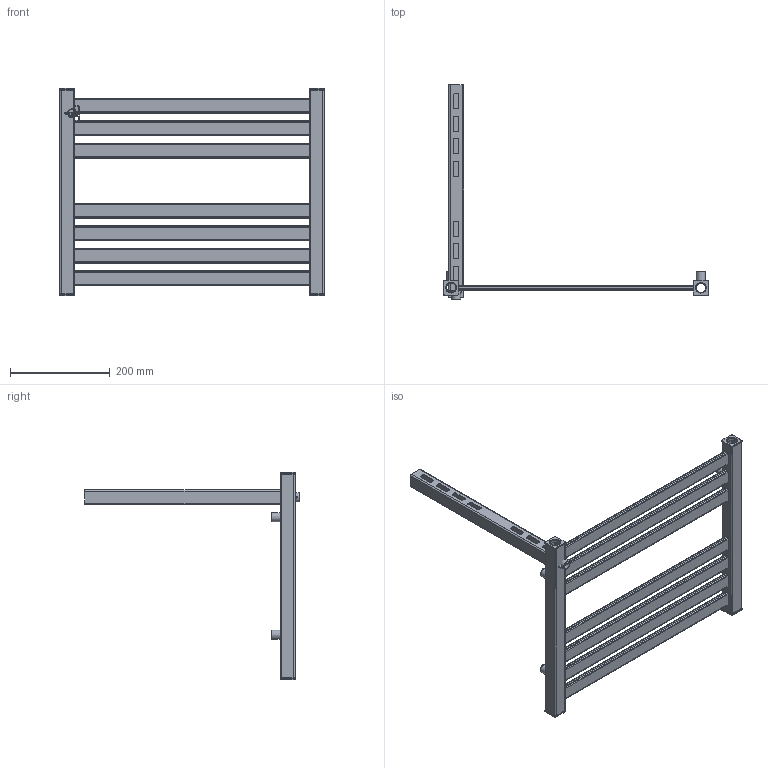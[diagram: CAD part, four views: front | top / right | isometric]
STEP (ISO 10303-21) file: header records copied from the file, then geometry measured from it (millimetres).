
FILE_DESCRIPTION( ( 'Unknown' ), '1' );
FILE_NAME( 'D:/Alplast sp. j/Witryna zespoBu - Projekty/Archiwum/Grzejniki Archiwum/Projekty/STANDARD/AK-EP/AK1-500EP.stp', 'Unknown', ( 'Unknown' ), ( 'Unknown' ), 'PSStep 10.1', 'Unknown', ' ' );
FILE_SCHEMA( ( 'AUTOMOTIVE_DESIGN { 1 0 10303 214 1 1 1 1 }' ) );
Length unit declared in the file: millimetre
Products named in the file (5): Assem1; AK1-EPEL; zaslepka kwadrat otwor; kana³  poziomy 30x10  500; mocowanie
Bounding box: 530 x 429 x 415.13 mm (x, y, z)
Volume: 622974.7 mm3; surface area: 833826.5 mm2
Topology: 21 solids, 21 shells, 474 faces, 1266 edges, 844 vertices
Faces by surface type: plane 264, cylinder 200, torus 10
Full cylindrical faces by diameter (mm): 16 x5, 18 x5, 18.631 x5, 23 x5
Entity records: 4796 total; most frequent: DIRECTION 684, CARTESIAN_POINT 654, ORIENTED_EDGE 620, EDGE_CURVE 310, AXIS2_PLACEMENT_3D 240, VERTEX_POINT 210, LINE 204, VECTOR 204
